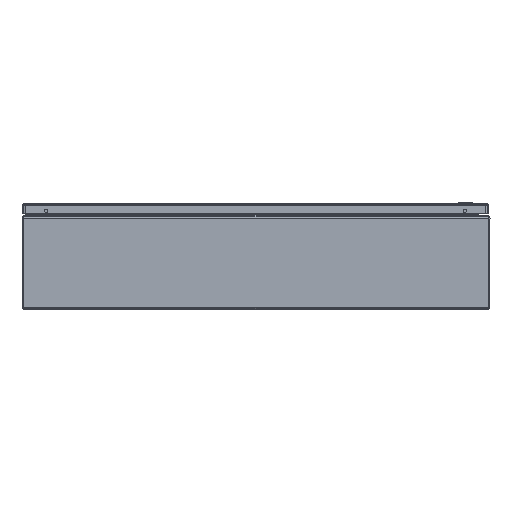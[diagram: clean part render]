
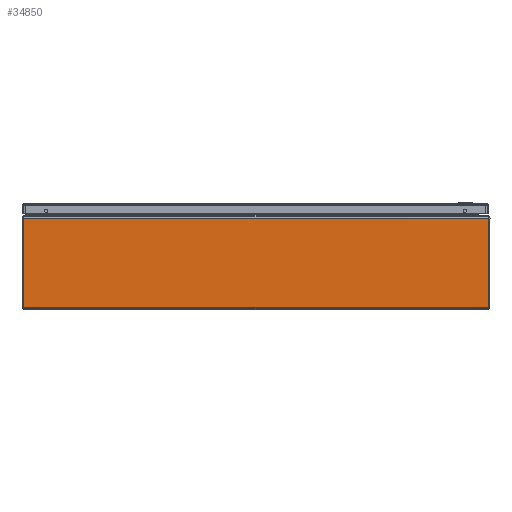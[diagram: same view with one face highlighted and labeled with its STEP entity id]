
A CAD part, front view. The second image highlights one B-rep face of the part: STEP entity #34850.
In plain terms, the highlighted planar face has unit normal (0, -1, 0).
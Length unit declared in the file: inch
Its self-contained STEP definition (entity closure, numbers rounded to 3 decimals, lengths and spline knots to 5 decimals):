
#610 = DIRECTION ( 'NONE',  ( 0., 0., -1. ) ) ;
#614 = DIRECTION ( 'NONE',  ( 0., -1., 0. ) ) ;
#641 = PLANE ( 'NONE',  #23795 ) ;
#849 = CARTESIAN_POINT ( 'NONE',  ( -195., -18., 5.838 ) ) ;
#1799 = EDGE_CURVE ( 'NONE', #13425, #13240, #29320, .T. ) ;
#1894 = EDGE_CURVE ( 'NONE', #13011, #12869, #29375, .T. ) ;
#1916 = EDGE_CURVE ( 'NONE', #13425, #12869, #29403, .T. ) ;
#1925 = EDGE_CURVE ( 'NONE', #13240, #13011, #29411, .T. ) ;
#12869 = VERTEX_POINT ( 'NONE', #18528 ) ;
#13011 = VERTEX_POINT ( 'NONE', #18267 ) ;
#13240 = VERTEX_POINT ( 'NONE', #19265 ) ;
#13425 = VERTEX_POINT ( 'NONE', #19129 ) ;
#18267 = CARTESIAN_POINT ( 'NONE',  ( 14.92093, -18., 0.123 ) ) ;
#18528 = CARTESIAN_POINT ( 'NONE',  ( 14.92093, -18., 5.838 ) ) ;
#19129 = CARTESIAN_POINT ( 'NONE',  ( -14.92093, -18., 5.838 ) ) ;
#19265 = CARTESIAN_POINT ( 'NONE',  ( -14.92093, -18., 0.123 ) ) ;
#19519 = EDGE_LOOP ( 'NONE', ( #26966, #26971, #26975, #26789 ) ) ;
#23795 = AXIS2_PLACEMENT_3D ( 'NONE', #849, #614, #610 ) ;
#26789 = ORIENTED_EDGE ( 'NONE', *, *, #1925, .T. ) ;
#26966 = ORIENTED_EDGE ( 'NONE', *, *, #1894, .T. ) ;
#26971 = ORIENTED_EDGE ( 'NONE', *, *, #1916, .F. ) ;
#26975 = ORIENTED_EDGE ( 'NONE', *, *, #1799, .T. ) ;
#27576 = DIRECTION ( 'NONE',  ( 1., 0., 0. ) ) ;
#27587 = CARTESIAN_POINT ( 'NONE',  ( -195., -18., 0.123 ) ) ;
#27591 = DIRECTION ( 'NONE',  ( 1., 0., 0. ) ) ;
#27606 = CARTESIAN_POINT ( 'NONE',  ( -195., -18., 5.838 ) ) ;
#27717 = DIRECTION ( 'NONE',  ( 0., 0., 1. ) ) ;
#27720 = CARTESIAN_POINT ( 'NONE',  ( 14.92093, -18., 5.838 ) ) ;
#27897 = CARTESIAN_POINT ( 'NONE',  ( -14.92093, -18., 5.838 ) ) ;
#27903 = DIRECTION ( 'NONE',  ( 0., 0., -1. ) ) ;
#29312 = VECTOR ( 'NONE', #27903, 39.37008 ) ;
#29320 = LINE ( 'NONE', #27897, #29312 ) ;
#29375 = LINE ( 'NONE', #27720, #29385 ) ;
#29385 = VECTOR ( 'NONE', #27717, 39.37008 ) ;
#29403 = LINE ( 'NONE', #27606, #29404 ) ;
#29404 = VECTOR ( 'NONE', #27591, 39.37008 ) ;
#29411 = LINE ( 'NONE', #27587, #29412 ) ;
#29412 = VECTOR ( 'NONE', #27576, 39.37008 ) ;
#29915 = FACE_OUTER_BOUND ( 'NONE', #19519, .T. ) ;
#34850 = ADVANCED_FACE ( 'NONE', ( #29915 ), #641, .T. ) ;
